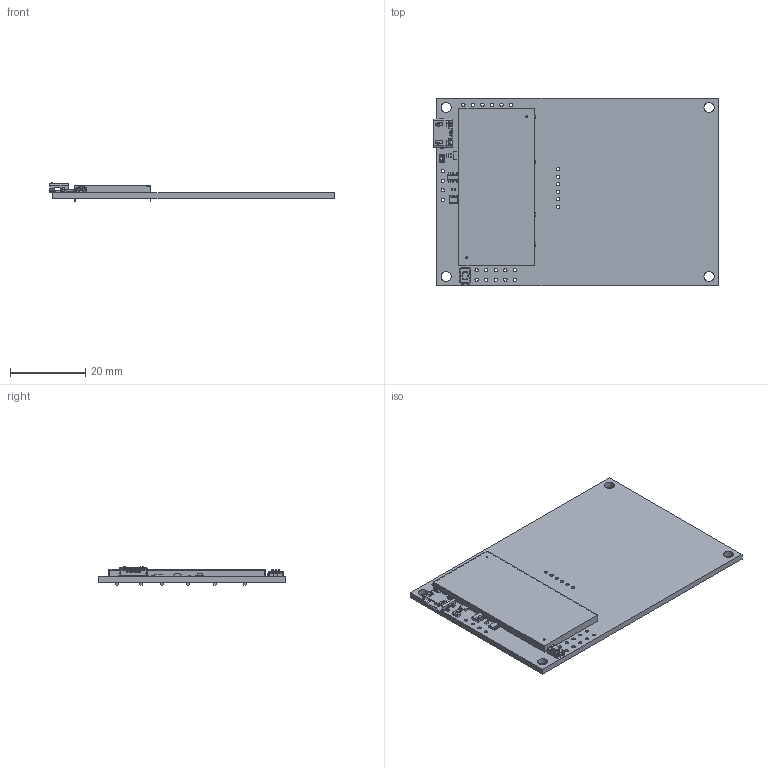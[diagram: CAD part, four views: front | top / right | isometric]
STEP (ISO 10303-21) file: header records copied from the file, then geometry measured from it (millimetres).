
FILE_DESCRIPTION(('Open CASCADE Model'),'2;1');
FILE_NAME('Open CASCADE Shape Model','2026-03-03T18:02:53',('Author'),( 'Open CASCADE'),'Open CASCADE STEP processor 6.8','Open CASCADE 6.8' ,'Unknown');
FILE_SCHEMA(('AUTOMOTIVE_DESIGN { 1 0 10303 214 1 1 1 1 }'));
Length unit declared in the file: millimetre
Products named in the file (143): PCB; Board; Designator63; C1_v2_Shield; L4; SRP2512A; 252012; L3; User_Library-Chip_Inductor_(3); L2; U1; 766026128; Extruded; R21; User_Library-Chip_Resistor2; R20; R28; C41; cap_0402; C58; C57; C37; C31; C30; C29; C28; R26; U2; User_Library-SOT457; User_Library-SOT457_body; User_Library-SOT457_pin; R1; R6; R5; R4; R3; U7; SOT-23-5; C56; C55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
Assembly tree (232 placements, depth 4):
  PCB
    Board
    Designator63
      C1_v2_Shield
    L4
      SRP2512A
        252012
    L3
      User_Library-Chip_Inductor_(3)
    L2
      User_Library-Chip_Inductor_(3)
    U1
      766026128
        Extruded
    R21
      User_Library-Chip_Resistor2
    R20
      User_Library-Chip_Resistor2
    R28
      User_Library-Chip_Resistor2
    C41
      cap_0402
    C58
      cap_0402
    C57
      cap_0402
    C37
      cap_0402
    C31
      cap_0402
    C30
      cap_0402
    C29
      cap_0402
    C28
      cap_0402
    R26
      User_Library-Chip_Resistor2
    U2
      User_Library-SOT457
        User_Library-SOT457_body
        User_Library-SOT457_pin  x6
    R1
      User_Library-Chip_Resistor2
    R6
      User_Library-Chip_Resistor2
    R5
      User_Library-Chip_Resistor2
    R4
      User_Library-Chip_Resistor2
    R3
      User_Library-Chip_Resistor2
    U7
      SOT-23-5
    C56
      cap_0402
    C55
      cap_0402
    C54
      cap_0402
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Bounding box: 75.85 x 50 x 4.93 mm (x, y, z)
Volume: 6372.4 mm3; surface area: 11280.1 mm2
Topology: 135 solids, 135 shells, 6063 faces, 14670 edges, 8290 vertices
Faces by surface type: plane 2781, cylinder 2299, sphere 724, bspline 214, cone 28, torus 17
Full cylindrical faces by diameter (mm): 0.5 x2, 0.6 x2, 0.9 x26, 2.7 x4
Entity records: 86171 total; most frequent: CARTESIAN_POINT 23977, ORIENTED_EDGE 11726, DIRECTION 11048, EDGE_CURVE 5863, LINE 4236, VECTOR 4236, VERTEX_POINT 3744, AXIS2_PLACEMENT_3D 3406
